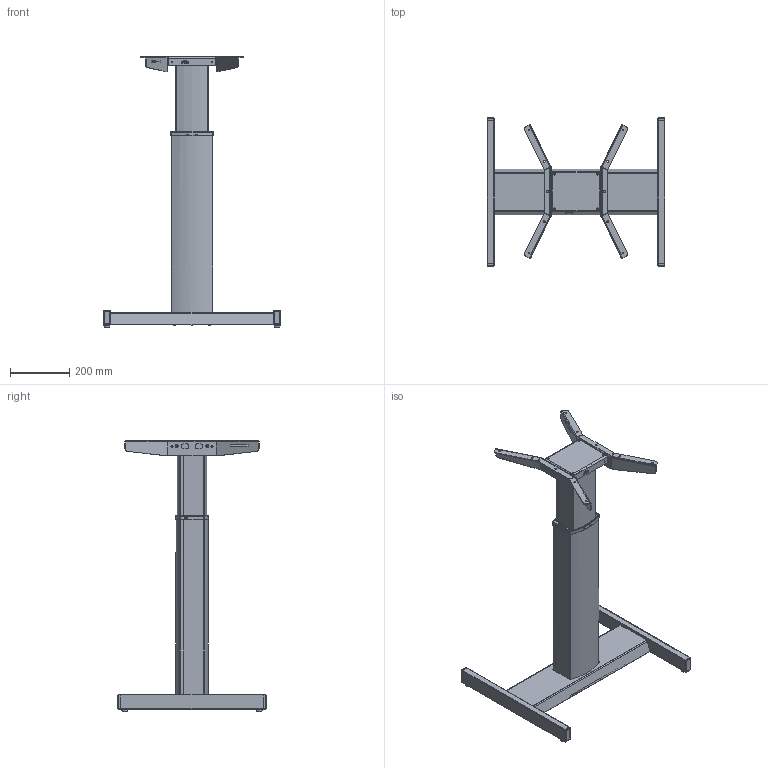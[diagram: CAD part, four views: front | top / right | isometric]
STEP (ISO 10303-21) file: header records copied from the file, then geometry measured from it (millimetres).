
FILE_DESCRIPTION (( 'STEP AP203' ), '1' );
FILE_NAME ('Tech-draw_501-19_XX060.STEP', '2019-11-11T09:37:26', ( '' ), ( '' ), 'SwSTEP 2.0', 'SolidWorks 2018', '' );
FILE_SCHEMA (( 'CONFIG_CONTROL_DESIGN' ));
Length unit declared in the file: millimetre
Products named in the file (27): 111500_silver; 319860_shell view; 311690_Shell view; 311610; 114500_silver; 318280; 114510_silver; 306980_black; Tech-draw_501-19_XX060; 312140; 350240; 311680; 304650_black; 107880_Shell view; 319840; 311700_Shell view; 325220; 311670; 107870_silver; 350250; 319830; 111360_shell view; 321890; 107860_silver; 311630_shell view1; 316990; 149510_501-19 XS060
Assembly tree (49 placements, depth 6):
  Tech-draw_501-19_XX060
    149510_501-19 XS060
      111500_silver
        107870_silver
          107860_silver
            311670
            311680
            311610
            350250
        111360_shell view
          107880_Shell view
            311690_Shell view
            311700_Shell view
            311630_shell view1
          312140
          350240
        306980_black  x4
      114510_silver
        114500_silver
          319840
          319830  x2
          319860_shell view
          318280  x4
          325220  x4
        316990  x4
      321890  x2
      304650_black  x10
Bounding box: 600 x 500 x 914 mm (x, y, z)
Volume: 2343428.4 mm3; surface area: 2047606 mm2
Topology: 41 solids, 41 shells, 1613 faces, 4065 edges, 2610 vertices
Faces by surface type: plane 895, cylinder 497, bspline 137, torus 46, sphere 24, cone 14
Full cylindrical faces by diameter (mm): 2 x2, 4 x4, 4.3 x2, 4.5 x6, 5 x24, 5.5 x4, 6 x138, 7 x12, 7.5 x6, 8.5 x4, 10 x8, 37.8 x1
Entity records: 45969 total; most frequent: CARTESIAN_POINT 17232, ORIENTED_EDGE 5226, DIRECTION 4979, EDGE_CURVE 2613, LINE 1725, VECTOR 1725, VERTEX_POINT 1717, AXIS2_PLACEMENT_3D 1627
